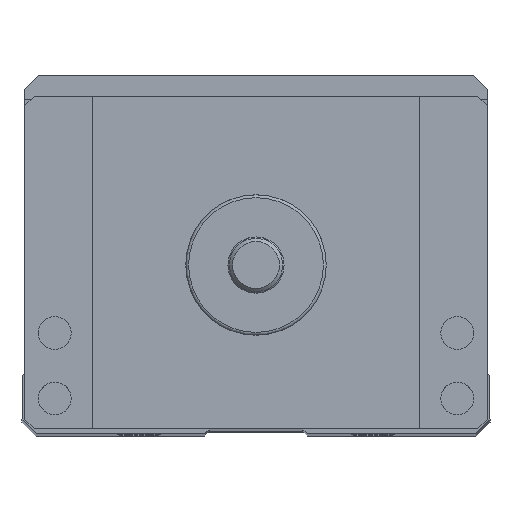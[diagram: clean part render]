
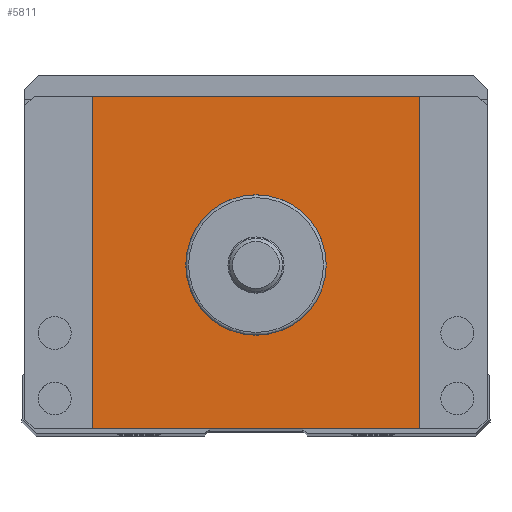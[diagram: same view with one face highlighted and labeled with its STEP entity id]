
A CAD part, top view. The second image highlights one B-rep face of the part: STEP entity #5811.
In plain terms, the highlighted planar face has unit normal (0, 0, 1).
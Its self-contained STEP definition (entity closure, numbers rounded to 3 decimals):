
#3755=LINE('',#17549,#4610);
#3757=LINE('',#17557,#4612);
#3758=LINE('',#17560,#4613);
#3759=LINE('',#17561,#4614);
#4610=VECTOR('',#14634,1.);
#4612=VECTOR('',#14642,1.);
#4613=VECTOR('',#14643,1.);
#4614=VECTOR('',#14644,1.);
#5472=PLANE('',#13588);
#5811=ADVANCED_FACE('',(#6630,#6631),#5472,.T.);
#6630=FACE_BOUND('',#7023,.T.);
#6631=FACE_BOUND('',#7024,.T.);
#7023=EDGE_LOOP('',(#7860));
#7024=EDGE_LOOP('',(#7861,#7862,#7863,#7864));
#7860=ORIENTED_EDGE('',*,*,#11732,.T.);
#7861=ORIENTED_EDGE('',*,*,#11733,.T.);
#7862=ORIENTED_EDGE('',*,*,#11734,.T.);
#7863=ORIENTED_EDGE('',*,*,#11729,.T.);
#7864=ORIENTED_EDGE('',*,*,#11735,.T.);
#10734=VERTEX_POINT('',#17548);
#10735=VERTEX_POINT('',#17550);
#10737=VERTEX_POINT('',#17556);
#10738=VERTEX_POINT('',#17558);
#10739=VERTEX_POINT('',#17559);
#11729=EDGE_CURVE('',#10735,#10734,#3755,.T.);
#11732=EDGE_CURVE('',#10737,#10737,#13165,.T.);
#11733=EDGE_CURVE('',#10738,#10739,#3757,.T.);
#11734=EDGE_CURVE('',#10739,#10735,#3758,.T.);
#11735=EDGE_CURVE('',#10734,#10738,#3759,.T.);
#13165=CIRCLE('',#13587,7.5);
#13587=AXIS2_PLACEMENT_3D('',#17555,#14640,#14641);
#13588=AXIS2_PLACEMENT_3D('',#17562,#14645,#14646);
#14634=DIRECTION('',(-1.,0.,0.));
#14640=DIRECTION('',(0.,0.,-1.));
#14641=DIRECTION('',(1.,0.,0.));
#14642=DIRECTION('',(1.,0.,0.));
#14643=DIRECTION('',(0.,1.,0.));
#14644=DIRECTION('',(0.,-1.,0.));
#14645=DIRECTION('',(0.,0.,1.));
#14646=DIRECTION('',(1.,0.,0.));
#17548=CARTESIAN_POINT('',(282.5,-4.5,1.5));
#17549=CARTESIAN_POINT('',(324.7,-4.5,1.5));
#17550=CARTESIAN_POINT('',(317.5,-4.5,1.5));
#17555=CARTESIAN_POINT('',(300.,-22.5,1.5));
#17556=CARTESIAN_POINT('',(307.5,-22.5,1.5));
#17557=CARTESIAN_POINT('',(275.3,-40.,1.5));
#17558=CARTESIAN_POINT('',(282.5,-40.,1.5));
#17559=CARTESIAN_POINT('',(317.5,-40.,1.5));
#17560=CARTESIAN_POINT('',(317.5,-40.,1.5));
#17561=CARTESIAN_POINT('',(282.5,-40.,1.5));
#17562=CARTESIAN_POINT('',(324.7,-40.,1.5));
